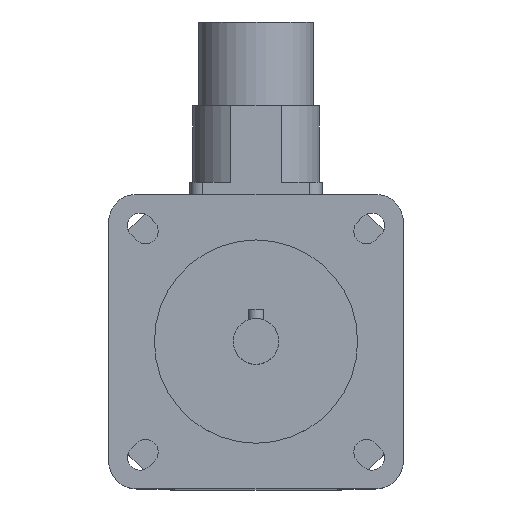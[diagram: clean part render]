
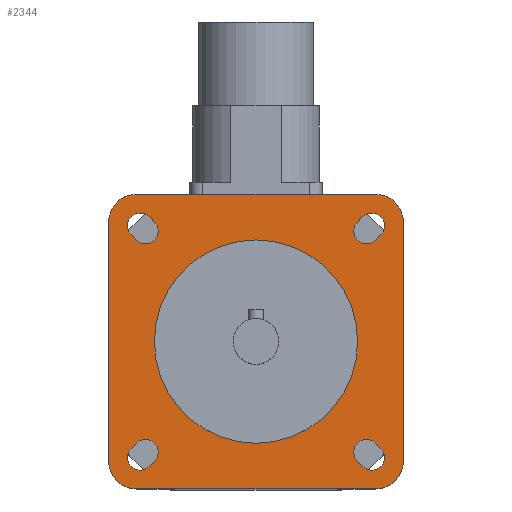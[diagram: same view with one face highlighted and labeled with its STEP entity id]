
A CAD part, top view. The second image highlights one B-rep face of the part: STEP entity #2344.
In plain terms, the highlighted planar face has unit normal (0, 0, 1).
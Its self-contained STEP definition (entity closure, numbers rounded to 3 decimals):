
#28=FACE_BOUND('',#421,.T.);
#29=FACE_BOUND('',#422,.T.);
#30=FACE_BOUND('',#423,.T.);
#31=FACE_BOUND('',#424,.T.);
#32=FACE_BOUND('',#425,.T.);
#46=CIRCLE('',#2435,20.);
#83=CIRCLE('',#2499,2.5);
#87=CIRCLE('',#2506,2.5);
#88=CIRCLE('',#2509,2.5);
#89=CIRCLE('',#2512,2.5);
#99=CIRCLE('',#2527,2.5);
#100=CIRCLE('',#2530,2.5);
#101=CIRCLE('',#2533,2.5);
#102=CIRCLE('',#2536,2.5);
#103=CIRCLE('',#2538,5.5);
#104=CIRCLE('',#2540,5.5);
#105=CIRCLE('',#2542,5.5);
#106=CIRCLE('',#2544,5.5);
#281=FACE_OUTER_BOUND('',#420,.T.);
#420=EDGE_LOOP('',(#1806,#1807,#1808,#1809,#1810,#1811,#1812,#1813));
#421=EDGE_LOOP('',(#1814));
#422=EDGE_LOOP('',(#1815,#1816,#1817,#1818));
#423=EDGE_LOOP('',(#1819,#1820,#1821,#1822));
#424=EDGE_LOOP('',(#1823,#1824,#1825,#1826));
#425=EDGE_LOOP('',(#1827,#1828,#1829,#1830));
#564=LINE('',#3642,#783);
#572=LINE('',#3666,#791);
#576=LINE('',#3676,#795);
#580=LINE('',#3686,#799);
#596=LINE('',#3737,#815);
#598=LINE('',#3743,#817);
#600=LINE('',#3749,#819);
#602=LINE('',#3755,#821);
#611=LINE('',#3783,#830);
#612=LINE('',#3784,#831);
#613=LINE('',#3785,#832);
#614=LINE('',#3786,#833);
#783=VECTOR('',#2885,1.5);
#791=VECTOR('',#2907,1.5);
#795=VECTOR('',#2917,1.5);
#799=VECTOR('',#2927,1.5);
#815=VECTOR('',#2973,1.5);
#817=VECTOR('',#2981,1.5);
#819=VECTOR('',#2989,1.5);
#821=VECTOR('',#2997,1.5);
#830=VECTOR('',#3028,47.);
#831=VECTOR('',#3029,47.);
#832=VECTOR('',#3030,47.);
#833=VECTOR('',#3031,47.);
#956=VERTEX_POINT('',#3463);
#1021=VERTEX_POINT('',#3639);
#1022=VERTEX_POINT('',#3641);
#1023=VERTEX_POINT('',#3645);
#1030=VERTEX_POINT('',#3663);
#1031=VERTEX_POINT('',#3665);
#1032=VERTEX_POINT('',#3669);
#1033=VERTEX_POINT('',#3673);
#1034=VERTEX_POINT('',#3675);
#1035=VERTEX_POINT('',#3679);
#1036=VERTEX_POINT('',#3683);
#1037=VERTEX_POINT('',#3685);
#1038=VERTEX_POINT('',#3689);
#1057=VERTEX_POINT('',#3735);
#1058=VERTEX_POINT('',#3741);
#1059=VERTEX_POINT('',#3747);
#1060=VERTEX_POINT('',#3753);
#1061=VERTEX_POINT('',#3759);
#1062=VERTEX_POINT('',#3761);
#1063=VERTEX_POINT('',#3765);
#1064=VERTEX_POINT('',#3767);
#1065=VERTEX_POINT('',#3771);
#1066=VERTEX_POINT('',#3773);
#1067=VERTEX_POINT('',#3777);
#1068=VERTEX_POINT('',#3779);
#1190=EDGE_CURVE('',#956,#956,#46,.T.);
#1276=EDGE_CURVE('',#1022,#1021,#564,.T.);
#1279=EDGE_CURVE('',#1021,#1023,#83,.T.);
#1288=EDGE_CURVE('',#1031,#1030,#572,.T.);
#1291=EDGE_CURVE('',#1030,#1032,#87,.T.);
#1293=EDGE_CURVE('',#1034,#1033,#576,.T.);
#1296=EDGE_CURVE('',#1033,#1035,#88,.T.);
#1298=EDGE_CURVE('',#1037,#1036,#580,.T.);
#1301=EDGE_CURVE('',#1036,#1038,#89,.T.);
#1324=EDGE_CURVE('',#1035,#1057,#596,.T.);
#1325=EDGE_CURVE('',#1057,#1034,#99,.T.);
#1327=EDGE_CURVE('',#1032,#1058,#598,.T.);
#1328=EDGE_CURVE('',#1058,#1031,#100,.T.);
#1330=EDGE_CURVE('',#1038,#1059,#600,.T.);
#1331=EDGE_CURVE('',#1059,#1037,#101,.T.);
#1333=EDGE_CURVE('',#1023,#1060,#602,.T.);
#1334=EDGE_CURVE('',#1060,#1022,#102,.T.);
#1336=EDGE_CURVE('',#1062,#1061,#103,.T.);
#1339=EDGE_CURVE('',#1064,#1063,#104,.T.);
#1342=EDGE_CURVE('',#1066,#1065,#105,.T.);
#1345=EDGE_CURVE('',#1068,#1067,#106,.T.);
#1347=EDGE_CURVE('',#1061,#1068,#611,.T.);
#1348=EDGE_CURVE('',#1067,#1066,#612,.T.);
#1349=EDGE_CURVE('',#1065,#1064,#613,.T.);
#1350=EDGE_CURVE('',#1063,#1062,#614,.T.);
#1806=ORIENTED_EDGE('',*,*,#1347,.T.);
#1807=ORIENTED_EDGE('',*,*,#1345,.T.);
#1808=ORIENTED_EDGE('',*,*,#1348,.T.);
#1809=ORIENTED_EDGE('',*,*,#1342,.T.);
#1810=ORIENTED_EDGE('',*,*,#1349,.T.);
#1811=ORIENTED_EDGE('',*,*,#1339,.T.);
#1812=ORIENTED_EDGE('',*,*,#1350,.T.);
#1813=ORIENTED_EDGE('',*,*,#1336,.T.);
#1814=ORIENTED_EDGE('',*,*,#1190,.T.);
#1815=ORIENTED_EDGE('',*,*,#1324,.T.);
#1816=ORIENTED_EDGE('',*,*,#1325,.T.);
#1817=ORIENTED_EDGE('',*,*,#1293,.T.);
#1818=ORIENTED_EDGE('',*,*,#1296,.T.);
#1819=ORIENTED_EDGE('',*,*,#1327,.T.);
#1820=ORIENTED_EDGE('',*,*,#1328,.T.);
#1821=ORIENTED_EDGE('',*,*,#1288,.T.);
#1822=ORIENTED_EDGE('',*,*,#1291,.T.);
#1823=ORIENTED_EDGE('',*,*,#1330,.T.);
#1824=ORIENTED_EDGE('',*,*,#1331,.T.);
#1825=ORIENTED_EDGE('',*,*,#1298,.T.);
#1826=ORIENTED_EDGE('',*,*,#1301,.T.);
#1827=ORIENTED_EDGE('',*,*,#1333,.T.);
#1828=ORIENTED_EDGE('',*,*,#1334,.T.);
#1829=ORIENTED_EDGE('',*,*,#1276,.T.);
#1830=ORIENTED_EDGE('',*,*,#1279,.T.);
#2248=PLANE('',#2545);
#2344=ADVANCED_FACE('',(#281,#28,#29,#30,#31,#32),#2248,.T.);
#2435=AXIS2_PLACEMENT_3D('',#3464,#2710,#2711);
#2499=AXIS2_PLACEMENT_3D('',#3647,#2890,#2891);
#2506=AXIS2_PLACEMENT_3D('',#3671,#2912,#2913);
#2509=AXIS2_PLACEMENT_3D('',#3681,#2922,#2923);
#2512=AXIS2_PLACEMENT_3D('',#3691,#2932,#2933);
#2527=AXIS2_PLACEMENT_3D('',#3739,#2976,#2977);
#2530=AXIS2_PLACEMENT_3D('',#3745,#2984,#2985);
#2533=AXIS2_PLACEMENT_3D('',#3751,#2992,#2993);
#2536=AXIS2_PLACEMENT_3D('',#3757,#3000,#3001);
#2538=AXIS2_PLACEMENT_3D('',#3762,#3005,#3006);
#2540=AXIS2_PLACEMENT_3D('',#3768,#3011,#3012);
#2542=AXIS2_PLACEMENT_3D('',#3774,#3017,#3018);
#2544=AXIS2_PLACEMENT_3D('',#3780,#3023,#3024);
#2545=AXIS2_PLACEMENT_3D('',#3782,#3026,#3027);
#2710=DIRECTION('center_axis',(0.,0.,-1.));
#2711=DIRECTION('ref_axis',(-1.,0.,0.));
#2885=DIRECTION('',(-0.707,-0.707,0.));
#2890=DIRECTION('center_axis',(0.,0.,-1.));
#2891=DIRECTION('ref_axis',(0.707,-0.707,0.));
#2907=DIRECTION('',(-0.707,0.707,0.));
#2912=DIRECTION('center_axis',(0.,0.,-1.));
#2913=DIRECTION('ref_axis',(-0.707,-0.707,0.));
#2917=DIRECTION('',(-0.707,-0.707,0.));
#2922=DIRECTION('center_axis',(0.,0.,-1.));
#2923=DIRECTION('ref_axis',(0.707,-0.707,0.));
#2927=DIRECTION('',(-0.707,0.707,0.));
#2932=DIRECTION('center_axis',(0.,0.,-1.));
#2933=DIRECTION('ref_axis',(-0.707,-0.707,0.));
#2973=DIRECTION('',(0.707,0.707,0.));
#2976=DIRECTION('center_axis',(0.,0.,-1.));
#2977=DIRECTION('ref_axis',(-0.707,0.707,0.));
#2981=DIRECTION('',(0.707,-0.707,0.));
#2984=DIRECTION('center_axis',(0.,0.,-1.));
#2985=DIRECTION('ref_axis',(0.707,0.707,0.));
#2989=DIRECTION('',(0.707,-0.707,0.));
#2992=DIRECTION('center_axis',(0.,0.,-1.));
#2993=DIRECTION('ref_axis',(0.707,0.707,0.));
#2997=DIRECTION('',(0.707,0.707,0.));
#3000=DIRECTION('center_axis',(0.,0.,-1.));
#3001=DIRECTION('ref_axis',(-0.707,0.707,0.));
#3005=DIRECTION('center_axis',(0.,0.,1.));
#3006=DIRECTION('ref_axis',(1.,0.,0.));
#3011=DIRECTION('center_axis',(0.,0.,1.));
#3012=DIRECTION('ref_axis',(0.,-1.,0.));
#3017=DIRECTION('center_axis',(0.,0.,1.));
#3018=DIRECTION('ref_axis',(-1.,0.,0.));
#3023=DIRECTION('center_axis',(0.,0.,1.));
#3024=DIRECTION('ref_axis',(0.,1.,0.));
#3026=DIRECTION('center_axis',(0.,0.,1.));
#3027=DIRECTION('ref_axis',(1.,0.,0.));
#3028=DIRECTION('',(-1.,0.,0.));
#3029=DIRECTION('',(0.,-1.,0.));
#3030=DIRECTION('',(1.,0.,0.));
#3031=DIRECTION('',(0.,1.,0.));
#3463=CARTESIAN_POINT('',(20.,0.,99.));
#3464=CARTESIAN_POINT('Origin',(0.,0.,99.));
#3639=CARTESIAN_POINT('',(-21.036,-24.572,99.));
#3641=CARTESIAN_POINT('',(-19.976,-23.511,99.));
#3642=CARTESIAN_POINT('',(-9.634,-13.17,99.));
#3645=CARTESIAN_POINT('',(-24.572,-21.036,99.));
#3647=CARTESIAN_POINT('Origin',(-22.804,-22.804,99.));
#3663=CARTESIAN_POINT('',(-24.572,21.036,99.));
#3665=CARTESIAN_POINT('',(-23.511,19.976,99.));
#3666=CARTESIAN_POINT('',(-13.17,9.634,99.));
#3669=CARTESIAN_POINT('',(-21.036,24.572,99.));
#3671=CARTESIAN_POINT('Origin',(-22.804,22.804,99.));
#3673=CARTESIAN_POINT('',(23.511,19.976,99.));
#3675=CARTESIAN_POINT('',(24.572,21.036,99.));
#3676=CARTESIAN_POINT('',(12.64,9.104,99.));
#3679=CARTESIAN_POINT('',(19.976,23.511,99.));
#3681=CARTESIAN_POINT('Origin',(21.744,21.744,99.));
#3683=CARTESIAN_POINT('',(19.976,-23.511,99.));
#3685=CARTESIAN_POINT('',(21.036,-24.572,99.));
#3686=CARTESIAN_POINT('',(9.104,-12.64,99.));
#3689=CARTESIAN_POINT('',(23.511,-19.976,99.));
#3691=CARTESIAN_POINT('Origin',(21.744,-21.744,99.));
#3735=CARTESIAN_POINT('',(21.036,24.572,99.));
#3737=CARTESIAN_POINT('',(9.634,13.17,99.));
#3739=CARTESIAN_POINT('Origin',(22.804,22.804,99.));
#3741=CARTESIAN_POINT('',(-19.976,23.511,99.));
#3743=CARTESIAN_POINT('',(-9.104,12.64,99.));
#3745=CARTESIAN_POINT('Origin',(-21.744,21.744,99.));
#3747=CARTESIAN_POINT('',(24.572,-21.036,99.));
#3749=CARTESIAN_POINT('',(13.17,-9.634,99.));
#3751=CARTESIAN_POINT('Origin',(22.804,-22.804,99.));
#3753=CARTESIAN_POINT('',(-23.511,-19.976,99.));
#3755=CARTESIAN_POINT('',(-12.64,-9.104,99.));
#3757=CARTESIAN_POINT('Origin',(-21.744,-21.744,99.));
#3759=CARTESIAN_POINT('',(23.5,29.,99.));
#3761=CARTESIAN_POINT('',(29.,23.5,99.));
#3762=CARTESIAN_POINT('Origin',(23.5,23.5,99.));
#3765=CARTESIAN_POINT('',(29.,-23.5,99.));
#3767=CARTESIAN_POINT('',(23.5,-29.,99.));
#3768=CARTESIAN_POINT('Origin',(23.5,-23.5,99.));
#3771=CARTESIAN_POINT('',(-23.5,-29.,99.));
#3773=CARTESIAN_POINT('',(-29.,-23.5,99.));
#3774=CARTESIAN_POINT('Origin',(-23.5,-23.5,99.));
#3777=CARTESIAN_POINT('',(-29.,23.5,99.));
#3779=CARTESIAN_POINT('',(-23.5,29.,99.));
#3780=CARTESIAN_POINT('Origin',(-23.5,23.5,99.));
#3782=CARTESIAN_POINT('Origin',(0.,0.,
99.));
#3783=CARTESIAN_POINT('',(23.5,29.,99.));
#3784=CARTESIAN_POINT('',(-29.,23.5,99.));
#3785=CARTESIAN_POINT('',(-23.5,-29.,99.));
#3786=CARTESIAN_POINT('',(29.,-23.5,99.));
